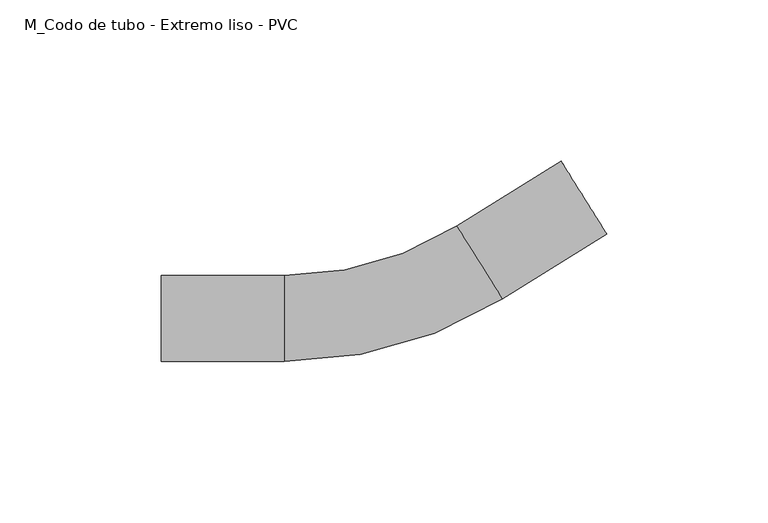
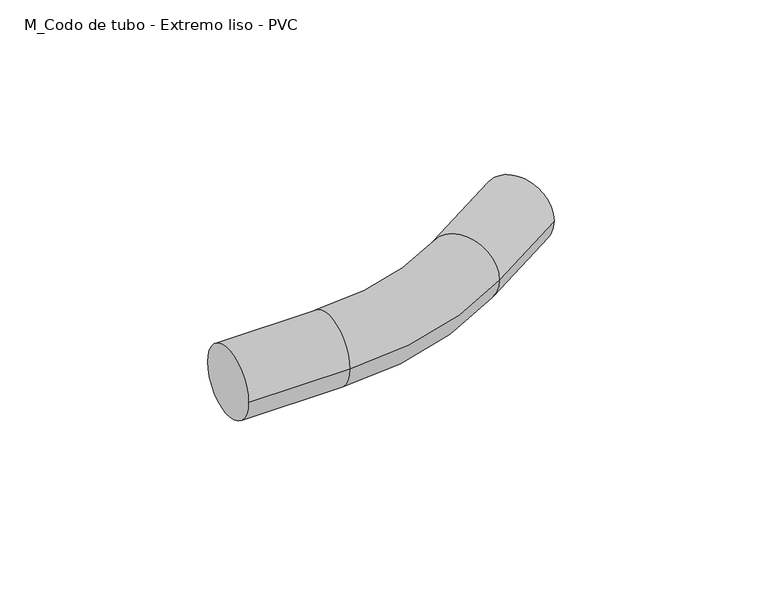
"""IFC4 building model written with IfcOpenShell, lengths in millimetres: cable carrier fitting geometry, M_Codo de tubo - Extremo liso - PVC : CODO ILUMINACION."""

from ifc_helpers import new_model, si_unit, point, frame, origin, place, context, project, spatial, circle_curve, ellipse_curve, trimmed, source, transform, mapped, element, save
from ifc_brep_helpers import plane_surface, cylinder_surface, revolved_surface, advanced_brep


def m_codo_de_tubo_extremo_liso_pvc_85a23a77(model_context):
    return source(origin(), model_context, "Body", "AdvancedBrep", [
        advanced_brep(
        [(-70.8749976, -13.335, 0.0), (-70.8749976, 13.335, 0.0), (-32.7749976, -13.335, 0.0), (-32.7749976, 13.335, 0.0), (20.7283009, 28.676824, 0.0), (34.8612477, 6.0593812, 0.0), (67.1718802, 26.2493052, 0.0), (53.0389334, 48.8667479, 0.0)],
        [
            (0, 1, circle_curve(frame((-70.8749976, 0.0, 0.0), z_axis=(-1.0, 0.0, 0.0), x_axis=(0.0, 1.0, 0.0)), 13.335)),
            (1, 0, circle_curve(frame((-70.8749976, 0.0, 0.0), z_axis=(-1.0, 0.0, 0.0), x_axis=(0.0, 1.0, 0.0)), 13.335)),
            (0, 2),
            (2, 3, circle_curve(frame((-32.7749976, 0.0, 0.0), z_axis=(-1.0, 0.0, 0.0), x_axis=(0.0, 1.0, 0.0)), 13.335)),
            (3, 1),
            (3, 2, circle_curve(frame((-32.7749976, 0.0, 0.0), z_axis=(-1.0, 0.0, 0.0), x_axis=(0.0, 1.0, 0.0)), 13.335)),
            (4, 3, circle_curve(frame((-32.7749976, 114.3, 0.0), z_axis=(0.0, 0.0, -1.0), x_axis=(0.0, -1.0, 0.0)), 100.965)),
            (2, 5, circle_curve(frame((-32.7749976, 114.3, 0.0), z_axis=(0.0, 0.0, 1.0), x_axis=(0.0, -1.0, 0.0)), 127.635)),
            (5, 4, circle_curve(frame((27.7947743, 17.3681026, 0.0), z_axis=(-0.8480480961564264, -0.5299192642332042, 0.0), x_axis=(-0.5299192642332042, 0.8480480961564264, 0.0)), 13.335)),
            (4, 5, circle_curve(frame((27.7947743, 17.3681026, 0.0), z_axis=(-0.8480480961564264, -0.5299192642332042, 0.0), x_axis=(-0.5299192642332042, 0.8480480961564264, 0.0)), 13.335)),
            (6, 7, circle_curve(frame((60.1054068, 37.5580266, 0.0), z_axis=(0.8480480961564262, 0.5299192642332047, 0.0), x_axis=(-0.5299192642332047, 0.8480480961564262, 0.0)), 13.335)),
            (7, 6, circle_curve(frame((60.1054068, 37.5580266, 0.0), z_axis=(0.8480480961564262, 0.5299192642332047, 0.0), x_axis=(-0.5299192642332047, 0.8480480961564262, 0.0)), 13.335)),
            (5, 6),
            (7, 4),
        ],
        [
            plane_surface(frame((-70.8749976, 0.0, 0.0), z_axis=(-1.0, 0.0, 0.0), x_axis=(0.0, 0.0, 1.0))),
            cylinder_surface(frame((-70.8749976, 0.0, 0.0), z_axis=(-1.0, 0.0, 0.0), x_axis=(0.0, 1.0, 0.0)), 13.335),
            revolved_surface(trimmed(ellipse_curve(frame((-32.7749976, 0.0, 0.0), z_axis=(-1.0, 0.0, 0.0), x_axis=(0.0, 1.0, 0.0)), 13.335, 13.335), [point((-32.7749976, -13.335, 0.0))], [point((-32.7749976, 13.335, 0.0))], True, "CARTESIAN"), (-32.7749976, 114.3, 0.0), (0.0, 0.0, 1.0)),
            revolved_surface(trimmed(ellipse_curve(frame((-32.7749976, 0.0, 0.0), z_axis=(-1.0, 0.0, 0.0), x_axis=(0.0, 1.0, 0.0)), 13.335, 13.335), [point((-32.7749976, 13.335, 0.0))], [point((-32.7749976, -13.335, 0.0))], True, "CARTESIAN"), (-32.7749976, 114.3, 0.0), (0.0, 0.0, 1.0)),
            plane_surface(frame((60.1054068, 37.5580266, 0.0), z_axis=(0.8480480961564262, 0.5299192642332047, 0.0), x_axis=(0.0, 0.0, 1.0))),
            cylinder_surface(frame((27.7947743, 17.3681026, 0.0), z_axis=(-0.8480480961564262, -0.5299192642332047, 0.0), x_axis=(-0.5299192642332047, 0.8480480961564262, 0.0)), 13.335),
        ],
        [
            (0, [[1, 2]]),
            (1, [[-1, 3, 4, 5]]),
            (1, [[-2, -5, 6, -3]]),
            (2, [[7, -4, 8, 9]]),
            (3, [[-8, -6, -7, 10]]),
            (4, [[11, 12]]),
            (5, [[-9, 13, -12, 14]]),
            (5, [[-10, -14, -11, -13]]),
        ],
    ),
    ])


if __name__ == "__main__":
    model = new_model("IFC4")
    model_context = context("Model", 3, world=origin())
    ifc_project = project(units=[si_unit("LENGTHUNIT", "METRE", prefix="MILLI")], contexts=[model_context])
    site = spatial("IfcSite", under=ifc_project)
    building = spatial("IfcBuilding", under=site)
    placement = place(None, origin())
    m_codo_de_tubo_extremo_liso_pvc_shape = m_codo_de_tubo_extremo_liso_pvc_85a23a77(model_context)
    element("IfcCableCarrierFitting", 1, ObjectType="M_Codo de tubo - Extremo liso - PVC : CODO ILUMINACION", at=placement, inside=building, context=model_context, shape_type="MappedRepresentation", body=[
        mapped(m_codo_de_tubo_extremo_liso_pvc_shape, transform((0.0, 0.0, 0.0), x_axis=(1.0, 0.0, 0.0), y_axis=(0.0, 1.0, 0.0), z_axis=(0.0, 0.0, 1.0))),
    ])
    save(model, "model.ifc")
